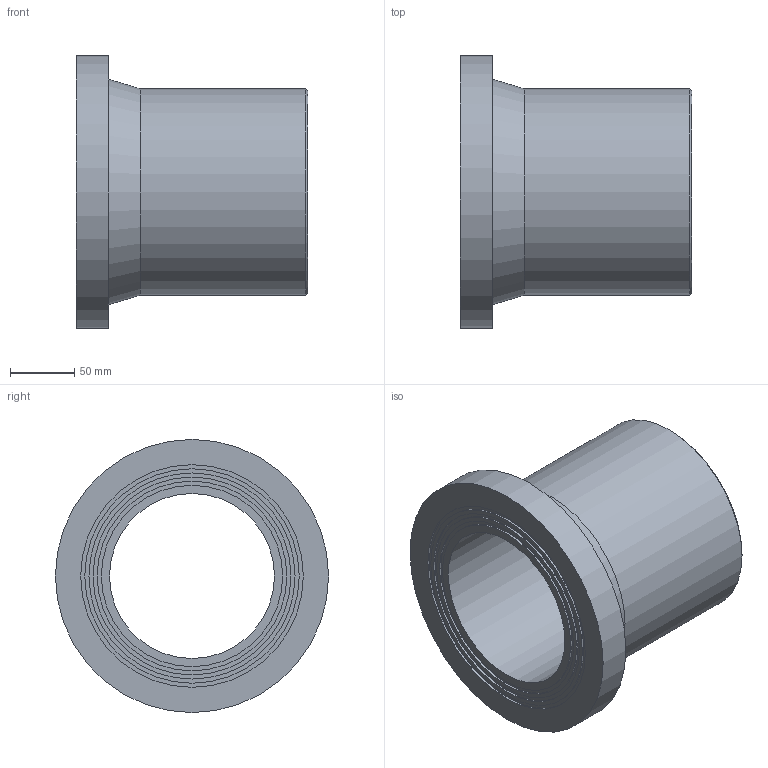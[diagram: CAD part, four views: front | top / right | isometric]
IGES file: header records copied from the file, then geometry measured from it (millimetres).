
Global section: file name: 490207160.ipt; native system: Autodesk Inventor 2015; preprocessor: unknown; author: Кирилл,,11,0; organization: 20170718.095537; date: 20190331.185822; units: millimetre
Bounding box: 180 x 212 x 212 mm (x, y, z)
Volume: 1723090.9 mm3; surface area: 213282.4 mm2
Topology: 1 solids, 1 shells, 20 faces, 33 edges, 22 vertices
Faces by surface type: plane 9, cylinder 5, revolution 4, cone 2
Full cylindrical faces by diameter (mm): 140.8 x1, 153.6 x1, 160 x1, 166.4 x1, 212 x1
